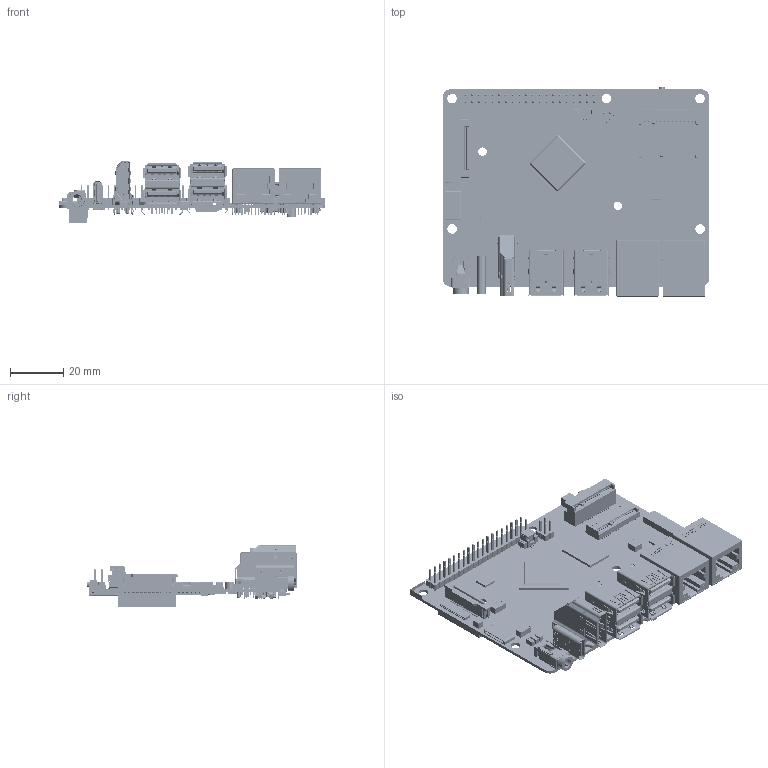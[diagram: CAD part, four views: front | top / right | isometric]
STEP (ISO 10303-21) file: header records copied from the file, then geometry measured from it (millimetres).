
FILE_DESCRIPTION((''),'2;1');
FILE_NAME('3B_PCBA_ASM','2023-11-21T14:37:56',('admin'),(''),'CREO PARAMETRIC BY PTC INC, 2023072','CREO PARAMETRIC BY PTC INC, 2023072','');
FILE_SCHEMA(('CONFIG_CONTROL_DESIGN','SHAPE_APPEARANCE_LAYERS_GROUPS'));
Products named in the file (29): 3B_PCB_TOP; 3B_PCB_BOT; 000_9_5; TYPE-C-14PIN0001; 484060001_2_2_1_1; USB_2X1_H_ASM_2_ASM_1_ASM_1_AF0_ASM; USB_2X1_H_AF0_ASM; USB_2X1_H_ASM_2_ASM_1_ASM_1_AF1_ASM; USB_2X1_H_AF1_ASM; WT125AL-024C-0W_3_; LPJG0926HENL; 1816577_2007435-1_2_1_1; APCI0270-P001A; _20455-040E-XXC_RECE_ASS_Y_IGES; PRT0001; APCI0108_200415_ASM; 1030-15P-HOUSING_3; 1030-TE_2; 1030-15P-COVER_2; 1030-15P-PRODUCT_ASM_2_ASM; 20231109-1030-15P-PRODUCT_ASM_1_ASM; 000_4_4; PJ-322YBC_1_00_6_1; PJ-322YBC_1_00_6_2; PJ-322YBC_1_00_6_ASM; SI62C-01200_1_2_1_5_1_1; SIM_7P_H1M4_SI62C_ASM_2_ASM_4_1_ASM; ASM0003_ASM; 3B_PCBA_ASM
Assembly tree (44 placements, depth 4):
  3B_PCBA_ASM
    3B_PCB_TOP
    3B_PCB_BOT
    000_9_5
    TYPE-C-14PIN0001
    USB_2X1_H_AF0_ASM
      USB_2X1_H_ASM_2_ASM_1_ASM_1_AF0_ASM
        484060001_2_2_1_1
    USB_2X1_H_AF1_ASM
      USB_2X1_H_ASM_2_ASM_1_ASM_1_AF1_ASM
        484060001_2_2_1_1
    WT125AL-024C-0W_3_
    LPJG0926HENL  x2
    1816577_2007435-1_2_1_1
    APCI0270-P001A
    _20455-040E-XXC_RECE_ASS_Y_IGES
    PRT0001
    APCI0108_200415_ASM
    20231109-1030-15P-PRODUCT_ASM_1_ASM
      1030-15P-PRODUCT_ASM_2_ASM
        1030-15P-HOUSING_3
        1030-TE_2  x15
        1030-15P-COVER_2
    000_4_4
    PJ-322YBC_1_00_6_ASM
      PJ-322YBC_1_00_6_1
      PJ-322YBC_1_00_6_2
    ASM0003_ASM
      SIM_7P_H1M4_SI62C_ASM_2_ASM_4_1_ASM
        SI62C-01200_1_2_1_5_1_1
Bounding box: 100.19 x 78.63 x 23.13 mm (x, y, z)
Volume: 26057.5 mm3; surface area: 38264.5 mm2
Topology: 62 solids, 75 shells, 14645 faces, 41049 edges, 26701 vertices
Faces by surface type: plane 9918, cylinder 4155, bspline 210, sphere 113, torus 82, cone 76, extrusion 51, revolution 40
Entity records: 458446 total; most frequent: CARTESIAN_POINT 89272, ORIENTED_EDGE 69431, DIRECTION 64798, EDGE_CURVE 34820, VECTOR 26768, LINE 26734, VERTEX_POINT 22639, AXIS2_PLACEMENT_3D 18995
